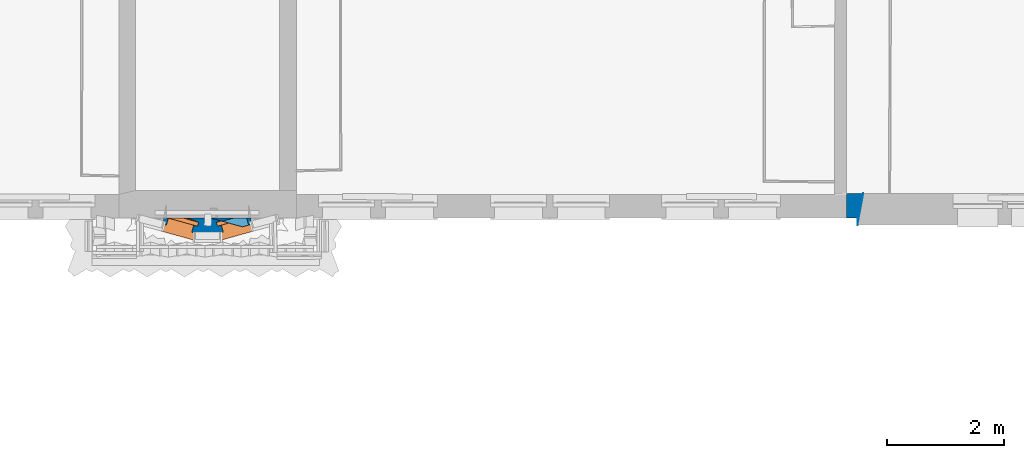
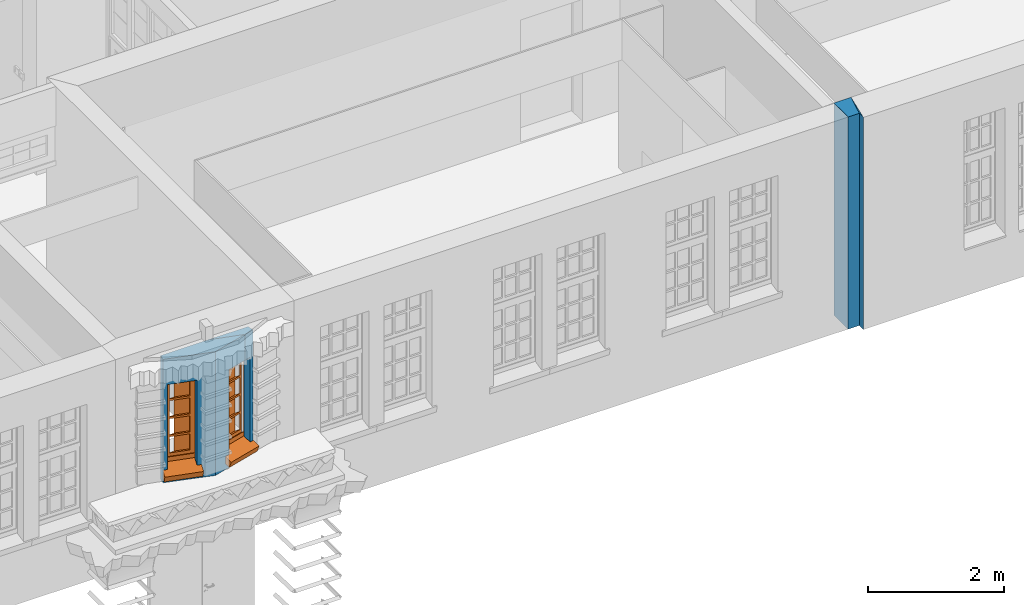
# One storey, part 74 of 158: 4 walls, 2 proxies, 2 openings.
"""IFC2X3 building model written with IfcOpenShell, lengths in metres."""

from ifc_helpers import new_model, entity, si_unit, converted_unit, derived_unit, money_unit, direction, frame, origin_with_axes, place, context, subcontext, project, spatial, polyline, outline, extrude, boolean, faceted_brep, material, type_object, element, fill, save


model = new_model("IFC2X3")

# Units and contexts
model_context = context("Model", 3, precision=1e-05, world=origin_with_axes(), true_north=direction((0.0, 1.0)))
body_context = subcontext(model_context, "Body", "Model", "MODEL_VIEW")
ifc_project = project(units=[si_unit("LENGTHUNIT", "METRE"), si_unit("AREAUNIT", "SQUARE_METRE"), si_unit("VOLUMEUNIT", "CUBIC_METRE"), converted_unit("PLANEANGLEUNIT", "DEGREE", entity("IfcPlaneAngleMeasure", 0.0174532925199), si_unit("PLANEANGLEUNIT", "RADIAN"), dimensions=[0, 0, 0, 0, 0, 0, 0]), money_unit("EUR"), converted_unit("TIMEUNIT", "Year", entity("IfcTimeMeasure", 31556926.0), si_unit("TIMEUNIT", "SECOND"), dimensions=[0, 0, 1, 0, 0, 0, 0]), si_unit("MASSUNIT", "GRAM", prefix="KILO"), si_unit("THERMODYNAMICTEMPERATUREUNIT", "DEGREE_CELSIUS"), si_unit("LUMINOUSINTENSITYUNIT", "LUMEN"), si_unit("ENERGYUNIT", "JOULE", prefix="MEGA"), derived_unit("THERMALCONDUCTANCEUNIT", [(si_unit("POWERUNIT", "WATT"), 1), (si_unit("LENGTHUNIT", "METRE"), -1), (si_unit("THERMODYNAMICTEMPERATUREUNIT", "KELVIN"), -1)]), derived_unit("SPECIFICHEATCAPACITYUNIT", [(si_unit("ENERGYUNIT", "JOULE"), 1), (si_unit("MASSUNIT", "GRAM", prefix="KILO"), -1), (si_unit("THERMODYNAMICTEMPERATUREUNIT", "KELVIN"), -1)]), derived_unit("MASSDENSITYUNIT", [(si_unit("MASSUNIT", "GRAM", prefix="KILO"), 1), (si_unit("VOLUMEUNIT", "CUBIC_METRE"), -1)])], contexts=[model_context])

# Site, building, storey
site_placement = place(None, origin_with_axes())
site = spatial("IfcSite", under=ifc_project, at=site_placement, Name="Gelände", CompositionType="ELEMENT")
building_placement = place(site_placement, origin_with_axes())
building = spatial("IfcBuilding", under=site, at=building_placement, Name="Gebäude", CompositionType="ELEMENT")
storey_placement = place(building_placement, origin_with_axes())
storey = spatial("IfcBuildingStorey", under=building, at=storey_placement, Name="ERDGESCHOSS", CompositionType="ELEMENT", Elevation=0.0)

# Wall
ifc_material = material(Name="05_ALLGEMEIN - TRAGENDE BAUTEILE")
wall_type_1 = type_object("IfcWallType", Name="05_ALLGEMEIN - TRAGENDE BAUTEILE 100", PredefinedType="ELEMENTEDWALL")
wall_1_placement = place(storey_placement, frame((3.7457522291, 9.9955937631, -0.21), z_axis=(0.0, 0.0, 1.0), x_axis=(-0.00239001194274, -0.999997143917, 0.0)))
element("IfcWall", 1, at=wall_1_placement, inside=storey, type_object=wall_type_1, material=ifc_material, Name="Wand-031", ObjectType="ELEMENTEDWALL", context=body_context, shape_type="CSG", body=[
    boolean("DIFFERENCE", extrude(outline(polyline([(-0.41924780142, 0.0), (0.121186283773, 0.0), (0.121186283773, 0.1), (-0.41924780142, 0.1), (-0.41924780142, 0.0)])), origin_with_axes(), (0.0, 0.0, 1.0), 3.81), faceted_brep([(0.0, 0.0, 3.81), (-0.419036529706, 0.0999496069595, 3.81), (-0.419036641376, 0.1, 3.81), (-0.41924780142, 0.1, 3.81), (-0.41924780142, 0.0, 3.81), (0.0, 0.0, 0.0), (-0.419036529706, 0.0999496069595, 0.0), (-0.419036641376, 0.1, 0.0), (0.121186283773, 0.1, 3.81), (0.121186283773, 0.1, 0.0), (-0.41924780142, 0.1, 0.0), (-0.41924780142, 0.0, 0.0), (0.121186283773, 0.0, 3.81), (0.121186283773, 0.0, 0.0)], [[[0, 1, 2, 3, 4]], [[1, 0, 5, 6]], [[2, 1, 6, 7]], [[8, 9, 7, 10, 3, 2]], [[3, 10, 11, 4]], [[5, 0, 4, 11]], [[6, 5, 11, 10, 7]], [[12, 2, 7, 13]], [[12, 13, 9, 8]], [[13, 7, 9]], [[2, 12, 8]]])),
])

# Wall, opening, proxy
wall_type_2 = type_object("IfcWallType", Name="05_ALLGEMEIN - TRAGENDE BAUTEILE 320", PredefinedType="ELEMENTEDWALL")
wall_2_placement = place(storey_placement, frame((-8.14682314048, 9.88904413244, 1.18241446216), z_axis=(0.0, 0.0, 1.0), x_axis=(0.963818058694, -0.26656096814, 0.0)))
wall_2 = element("IfcWall", 2, at=wall_2_placement, inside=storey, type_object=wall_type_2, material=ifc_material, Name="Wand-030", ObjectType="ELEMENTEDWALL", context=body_context, shape_type="CSG", body=[
    boolean("DIFFERENCE", boolean("DIFFERENCE", extrude(outline(polyline([(-0.0885275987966, 0.0), (1.32862995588, 0.0), (1.32862995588, 0.32), (-0.0885275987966, 0.32), (-0.0885275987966, 0.0)])), origin_with_axes(), (0.0, 0.0, 1.0), 2.22476603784), faceted_brep([(0.0, 0.0, 2.22476603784), (-0.008800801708, 0.107188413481, 2.22476603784), (0.760447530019, 0.32, 2.22476603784), (-0.0885275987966, 0.32, 2.22476603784), (-0.0885275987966, 0.0, 2.22476603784), (0.0, 0.0, 0.0), (-0.008800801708, 0.107188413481, 0.0), (0.760447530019, 0.32, 0.0), (-0.0885275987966, 0.32, 0.0), (-0.0885275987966, 0.0, 0.0)], [[[0, 1, 2, 3, 4]], [[1, 0, 5, 6]], [[7, 2, 1, 6]], [[2, 7, 8, 3]], [[3, 8, 9, 4]], [[5, 0, 4, 9]], [[6, 5, 9, 8, 7]]])), faceted_brep([(1.32862995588, 0.32, 0.0), (1.32862995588, 0.32, 0.107459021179), (1.32862995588, 0.32, 1.75944703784), (1.32862995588, 0.32, 2.22476603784), (1.32862995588, 0.0, 2.22476603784), (1.32862995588, 0.0, 0.0), (0.79772574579, 0.0, 2.22476603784), (1.03735978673, 0.144438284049, 1.75944703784), (1.03735978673, 0.144438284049, 0.107459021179), (0.79772574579, 0.0, 0.0), (1.08648678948, 0.32, 1.75944703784), (0.968238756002, 0.32, 0.107459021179), (0.968238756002, 0.32, 0.287936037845), (0.849808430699, 0.32, 0.287936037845), (0.849808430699, 0.32, 1.82944703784), (1.08648678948, 0.32, 1.82944703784), (0.97283184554, 0.251495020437, 1.75944703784), (0.97283184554, 0.251495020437, 0.287936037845), (0.941320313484, 0.30377503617, 0.287936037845), (0.941320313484, 0.30377503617, 0.107459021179), (0.912880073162, 0.215359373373, 0.287936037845), (0.912880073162, 0.215359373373, 1.82944703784)], [[[0, 1, 2, 3, 4, 5]], [[6, 3, 2, 7, 8, 1, 0, 9]], [[10, 2, 1, 11, 12, 13, 14, 15]], [[3, 6, 4]], [[6, 9, 5, 4]], [[9, 0, 5]], [[2, 10, 16, 7]], [[16, 17, 18, 19, 8, 7]], [[11, 1, 8, 19]], [[12, 11, 19, 18]], [[13, 12, 18, 17, 20]], [[14, 13, 20, 21]], [[15, 14, 21]], [[10, 15, 21, 20, 17, 16]]])),
])
opening_1_placement = place(wall_2_placement, frame((0.291796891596, 0.0, 0.287936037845), z_axis=(0.0, 0.0, 1.0), x_axis=(1.0, 0.0, 0.0)))
opening_1 = element("IfcOpeningElement", 3, at=opening_1_placement, cuts=wall_2, Name="Fenster-015", context=body_context, shape_type="Brep", body=[
    faceted_brep([(0.294976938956, 0.64, 0.0), (0.294976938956, 0.64, 1.541511), (0.294976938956, 0.125, 1.541511), (0.294976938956, 0.125, 0.0), (-0.294976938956, 0.64, 0.0), (-0.294976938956, 0.64, 1.541511), (-0.294976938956, 0.125, 1.541511), (-0.294976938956, 0.125, 0.0)], [[[0, 1, 2, 3]], [[0, 4, 5, 1]], [[1, 5, 6, 2]], [[3, 2, 6, 7]], [[4, 0, 3, 7]], [[5, 4, 7, 6]]]),
    faceted_brep([(0.224976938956, -0.32, 1.471511), (0.224976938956, -0.32, 0.0), (0.224976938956, 0.125, 0.0), (0.224976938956, 0.125, 1.471511), (-0.224976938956, -0.32, 1.471511), (-0.224976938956, -0.32, 0.0), (-0.224976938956, 0.125, 0.0), (-0.224976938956, 0.125, 1.471511)], [[[0, 1, 2, 3]], [[0, 4, 5, 1]], [[1, 5, 6, 2]], [[3, 2, 6, 7]], [[4, 0, 3, 7]], [[5, 4, 7, 6]]]),
    faceted_brep([(0.224976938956, -0.195, 0.0), (0.224976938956, -0.195, -0.180477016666), (0.224976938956, 0.186042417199, -0.180477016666), (0.224976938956, 0.186042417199, 0.0), (-0.224976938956, -0.195, 0.0), (-0.224976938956, -0.195, -0.180477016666), (-0.224976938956, 0.186042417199, -0.180477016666), (-0.224976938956, 0.186042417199, 0.0)], [[[0, 1, 2, 3]], [[0, 4, 5, 1]], [[1, 5, 6, 2]], [[3, 2, 6, 7]], [[4, 0, 3, 7]], [[5, 4, 7, 6]]]),
])
building_element_proxy_type = type_object("IfcBuildingElementProxyType", Name="1-Flügelfenster 25", PredefinedType="NOTDEFINED")
proxy_1_placement = place(opening_1_placement, frame((-0.294976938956, 0.0, 0.0), z_axis=(0.0, 0.0, 1.0), x_axis=(1.0, 0.0, 0.0)))
proxy_1 = element("IfcBuildingElementProxy", 4, at=proxy_1_placement, inside=storey, type_object=building_element_proxy_type, Name="Fenster-015", context=body_context, shape_type="Brep", body=[
    faceted_brep([(0.07, 0.128108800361, -0.133849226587), (0.279412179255, 0.186042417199, -0.112763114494), (0.519953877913, 0.186042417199, -0.112763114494), (0.519953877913, 0.0, -0.180477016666), (0.589953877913, 0.0, -0.180477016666), (0.589953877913, -0.08, -0.209594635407), (0.0, -0.08, -0.209594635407), (0.0, 0.0, -0.180477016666), (0.07, 0.0, -0.180477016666), (0.131056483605, 0.145, 0.0), (0.07, 0.128108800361, -0.00614789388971), (0.519953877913, 0.145, 0.0), (0.519953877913, 0.0, -0.0527756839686), (0.589953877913, 0.0, -0.0527756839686), (0.589953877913, -0.121042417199, -0.0968315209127), (0.0, -0.121042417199, -0.0968315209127), (0.0, 0.0, -0.0527756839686), (0.07, 0.0, -0.0527756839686)], [[[0, 1, 2, 3, 4, 5, 6, 7, 8]], [[9, 1, 0, 10]], [[1, 9, 11, 2]], [[3, 2, 11, 12]], [[3, 12, 13, 4]], [[5, 4, 13, 14]], [[6, 5, 14, 15]], [[16, 7, 6, 15]], [[16, 17, 8, 7]], [[10, 0, 8, 17]], [[9, 10, 17, 16, 15, 14, 13, 12, 11]]]),
    faceted_brep([(0.08, 0.130875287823, 0.08), (0.08, 0.130875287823, 1.461511), (0.08, 0.125, 1.461511), (0.08, 0.125, 0.08), (0.0587626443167, 0.125, 1.48274835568), (0.0587626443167, 0.125, 0.0587626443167)], [[[0, 1, 2, 3]], [[4, 1, 0, 5]], [[1, 4, 2]], [[4, 5, 3, 2]], [[5, 0, 3]]]),
    faceted_brep([(0.311791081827, 0.195, 0.0), (0.311791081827, 0.195, 0.08), (0.509953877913, 0.195, 0.08), (0.589953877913, 0.195, 0.0), (0.08, 0.130875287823, 0.08), (0.0587626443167, 0.125, 0.0), (0.0587626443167, 0.125, 0.0587626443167), (0.08, 0.125, 0.08), (0.509953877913, 0.125, 0.08), (0.589953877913, 0.125, 0.0)], [[[0, 1, 2, 3]], [[4, 1, 0, 5, 6]], [[1, 4, 7, 8, 2]], [[8, 9, 3, 2]], [[5, 0, 3, 9]], [[6, 5, 9, 8, 7]], [[4, 6, 7]]]),
    faceted_brep([(0.311791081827, 0.195, 1.461511), (0.311791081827, 0.195, 1.541511), (0.589953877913, 0.195, 1.541511), (0.509953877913, 0.195, 1.461511), (0.0587626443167, 0.125, 1.541511), (0.08, 0.130875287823, 1.461511), (0.0587626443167, 0.125, 1.48274835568), (0.589953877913, 0.125, 1.541511), (0.509953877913, 0.125, 1.461511), (0.08, 0.125, 1.461511)], [[[0, 1, 2, 3]], [[4, 1, 0, 5, 6]], [[1, 4, 7, 2]], [[7, 8, 3, 2]], [[5, 0, 3, 8, 9]], [[6, 5, 9]], [[4, 6, 9, 8, 7]]]),
    faceted_brep([(0.529953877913, 0.208, 0.06), (0.529953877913, 0.195, 0.06), (0.449953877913, 0.195, 0.14), (0.449953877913, 0.208, 0.14), (0.529953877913, 0.208, 1.481511), (0.529953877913, 0.195, 1.481511), (0.449953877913, 0.195, 1.401511), (0.449953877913, 0.208, 1.401511)], [[[0, 1, 2, 3]], [[4, 5, 1, 0]], [[2, 1, 5, 6]], [[3, 2, 6, 7]], [[4, 0, 3, 7]], [[7, 6, 5, 4]]]),
    faceted_brep([(0.358782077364, 0.208, 1.401511), (0.358782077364, 0.208, 1.481511), (0.529953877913, 0.208, 1.481511), (0.449953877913, 0.208, 1.401511), (0.311791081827, 0.195, 1.481511), (0.311791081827, 0.195, 1.401511), (0.529953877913, 0.195, 1.481511), (0.449953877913, 0.195, 1.401511)], [[[0, 1, 2, 3]], [[4, 1, 0, 5]], [[1, 4, 6, 2]], [[2, 6, 7, 3]], [[5, 0, 3, 7]], [[4, 5, 7, 6]]]),
    faceted_brep([(0.509953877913, 0.195, 0.08), (0.509953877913, 0.138, 0.08), (0.449953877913, 0.138, 0.14), (0.449953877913, 0.195, 0.14), (0.509953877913, 0.195, 1.461511), (0.509953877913, 0.138, 1.461511), (0.449953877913, 0.138, 1.401511), (0.449953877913, 0.195, 1.401511)], [[[0, 1, 2, 3]], [[4, 5, 1, 0]], [[2, 1, 5, 6]], [[3, 2, 6, 7]], [[4, 0, 3, 7]], [[7, 6, 5, 4]]]),
    faceted_brep([(0.311791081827, 0.195, 1.401511), (0.311791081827, 0.195, 1.461511), (0.509953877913, 0.195, 1.461511), (0.449953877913, 0.195, 1.401511), (0.105753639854, 0.138, 1.461511), (0.14, 0.147474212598, 1.401511), (0.105753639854, 0.138, 1.43575736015), (0.509953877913, 0.138, 1.461511), (0.449953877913, 0.138, 1.401511), (0.14, 0.138, 1.401511)], [[[0, 1, 2, 3]], [[4, 1, 0, 5, 6]], [[1, 4, 7, 2]], [[2, 7, 8, 3]], [[5, 0, 3, 8, 9]], [[6, 5, 9]], [[4, 6, 9, 8, 7]]]),
    faceted_brep([(0.358782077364, 0.208, 0.42912775), (0.358782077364, 0.208, 0.46412775), (0.449953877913, 0.208, 0.46412775), (0.449953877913, 0.208, 0.42912775), (0.232267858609, 0.173, 0.46412775), (0.232267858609, 0.173, 0.42912775), (0.449953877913, 0.173, 0.46412775), (0.449953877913, 0.173, 0.42912775)], [[[0, 1, 2, 3]], [[4, 1, 0, 5]], [[1, 4, 6, 2]], [[6, 7, 3, 2]], [[5, 0, 3, 7]], [[4, 5, 7, 6]]]),
    faceted_brep([(0.232267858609, 0.173, 0.7532555), (0.232267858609, 0.173, 0.7882555), (0.449953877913, 0.173, 0.7882555), (0.449953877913, 0.173, 0.7532555), (0.14, 0.147474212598, 0.7882555), (0.14, 0.147474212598, 0.7532555), (0.14, 0.138, 0.7882555), (0.449953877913, 0.138, 0.7882555), (0.449953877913, 0.138, 0.7532555), (0.14, 0.138, 0.7532555)], [[[0, 1, 2, 3]], [[4, 1, 0, 5]], [[1, 4, 6, 7, 2]], [[7, 8, 3, 2]], [[5, 0, 3, 8, 9]], [[4, 5, 9, 6]], [[6, 9, 8, 7]]]),
    faceted_brep([(0.358782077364, 0.208, 0.7532555), (0.358782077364, 0.208, 0.7882555), (0.449953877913, 0.208, 0.7882555), (0.449953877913, 0.208, 0.7532555), (0.232267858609, 0.173, 0.7882555), (0.232267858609, 0.173, 0.7532555), (0.449953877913, 0.173, 0.7882555), (0.449953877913, 0.173, 0.7532555)], [[[0, 1, 2, 3]], [[4, 1, 0, 5]], [[1, 4, 6, 2]], [[6, 7, 3, 2]], [[5, 0, 3, 7]], [[4, 5, 7, 6]]]),
    faceted_brep([(0.232267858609, 0.173, 1.07738325), (0.232267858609, 0.173, 1.11238325), (0.449953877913, 0.173, 1.11238325), (0.449953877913, 0.173, 1.07738325), (0.14, 0.147474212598, 1.11238325), (0.14, 0.147474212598, 1.07738325), (0.14, 0.138, 1.11238325), (0.449953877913, 0.138, 1.11238325), (0.449953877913, 0.138, 1.07738325), (0.14, 0.138, 1.07738325)], [[[0, 1, 2, 3]], [[4, 1, 0, 5]], [[1, 4, 6, 7, 2]], [[7, 8, 3, 2]], [[5, 0, 3, 8, 9]], [[4, 5, 9, 6]], [[6, 9, 8, 7]]]),
    faceted_brep([(0.358782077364, 0.208, 1.07738325), (0.358782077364, 0.208, 1.11238325), (0.449953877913, 0.208, 1.11238325), (0.449953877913, 0.208, 1.07738325), (0.232267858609, 0.173, 1.11238325), (0.232267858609, 0.173, 1.07738325), (0.449953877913, 0.173, 1.11238325), (0.449953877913, 0.173, 1.07738325)], [[[0, 1, 2, 3]], [[4, 1, 0, 5]], [[1, 4, 6, 2]], [[6, 7, 3, 2]], [[5, 0, 3, 7]], [[4, 5, 7, 6]]]),
    faceted_brep([(0.250341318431, 0.178, 1.11238325), (0.250341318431, 0.178, 1.401511), (0.449953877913, 0.178, 1.401511), (0.449953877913, 0.178, 1.11238325), (0.214194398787, 0.168, 1.401511), (0.214194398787, 0.168, 1.11238325), (0.449953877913, 0.168, 1.401511), (0.449953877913, 0.168, 1.11238325)], [[[0, 1, 2, 3]], [[4, 1, 0, 5]], [[1, 4, 6, 2]], [[6, 7, 3, 2]], [[5, 0, 3, 7]], [[4, 5, 7, 6]]]),
    faceted_brep([(0.358782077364, 0.208, 0.06), (0.358782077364, 0.208, 0.14), (0.449953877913, 0.208, 0.14), (0.529953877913, 0.208, 0.06), (0.311791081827, 0.195, 0.14), (0.311791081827, 0.195, 0.06), (0.449953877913, 0.195, 0.14), (0.529953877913, 0.195, 0.06)], [[[0, 1, 2, 3]], [[4, 1, 0, 5]], [[1, 4, 6, 2]], [[6, 7, 3, 2]], [[5, 0, 3, 7]], [[4, 5, 7, 6]]]),
    faceted_brep([(0.14, 0.147474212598, 0.14), (0.14, 0.147474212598, 1.401511), (0.14, 0.138, 1.401511), (0.14, 0.138, 0.14), (0.105753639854, 0.138, 1.43575736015), (0.105753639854, 0.138, 0.105753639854)], [[[0, 1, 2, 3]], [[4, 1, 0, 5]], [[1, 4, 2]], [[4, 5, 3, 2]], [[5, 0, 3]]]),
    faceted_brep([(0.311791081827, 0.195, 0.08), (0.311791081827, 0.195, 0.14), (0.449953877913, 0.195, 0.14), (0.509953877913, 0.195, 0.08), (0.14, 0.147474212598, 0.14), (0.105753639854, 0.138, 0.08), (0.105753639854, 0.138, 0.105753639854), (0.14, 0.138, 0.14), (0.449953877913, 0.138, 0.14), (0.509953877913, 0.138, 0.08)], [[[0, 1, 2, 3]], [[4, 1, 0, 5, 6]], [[1, 4, 7, 8, 2]], [[8, 9, 3, 2]], [[5, 0, 3, 9]], [[6, 5, 9, 8, 7]], [[4, 6, 7]]]),
    faceted_brep([(0.232267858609, 0.173, 0.42912775), (0.232267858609, 0.173, 0.46412775), (0.449953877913, 0.173, 0.46412775), (0.449953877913, 0.173, 0.42912775), (0.14, 0.147474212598, 0.46412775), (0.14, 0.147474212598, 0.42912775), (0.14, 0.138, 0.46412775), (0.449953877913, 0.138, 0.46412775), (0.449953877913, 0.138, 0.42912775), (0.14, 0.138, 0.42912775)], [[[0, 1, 2, 3]], [[4, 1, 0, 5]], [[1, 4, 6, 7, 2]], [[7, 8, 3, 2]], [[5, 0, 3, 8, 9]], [[4, 5, 9, 6]], [[6, 9, 8, 7]]]),
    faceted_brep([(0.250341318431, 0.178, 0.7882555), (0.250341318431, 0.178, 1.07738325), (0.449953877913, 0.178, 1.07738325), (0.449953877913, 0.178, 0.7882555), (0.214194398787, 0.168, 1.07738325), (0.214194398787, 0.168, 0.7882555), (0.449953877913, 0.168, 1.07738325), (0.449953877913, 0.168, 0.7882555)], [[[0, 1, 2, 3]], [[4, 1, 0, 5]], [[1, 4, 6, 2]], [[3, 2, 6, 7]], [[5, 0, 3, 7]], [[4, 5, 7, 6]]]),
    faceted_brep([(0.250341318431, 0.178, 0.46412775), (0.250341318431, 0.178, 0.7532555), (0.449953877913, 0.178, 0.7532555), (0.449953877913, 0.178, 0.46412775), (0.214194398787, 0.168, 0.7532555), (0.214194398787, 0.168, 0.46412775), (0.449953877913, 0.168, 0.7532555), (0.449953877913, 0.168, 0.46412775)], [[[0, 1, 2, 3]], [[4, 1, 0, 5]], [[1, 4, 6, 2]], [[6, 7, 3, 2]], [[5, 0, 3, 7]], [[4, 5, 7, 6]]]),
    faceted_brep([(0.250341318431, 0.178, 0.14), (0.250341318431, 0.178, 0.42912775), (0.449953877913, 0.178, 0.42912775), (0.449953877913, 0.178, 0.14), (0.214194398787, 0.168, 0.42912775), (0.214194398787, 0.168, 0.14), (0.449953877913, 0.168, 0.42912775), (0.449953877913, 0.168, 0.14)], [[[0, 1, 2, 3]], [[4, 1, 0, 5]], [[1, 4, 6, 2]], [[3, 2, 6, 7]], [[5, 0, 3, 7]], [[4, 5, 7, 6]]]),
    faceted_brep([(0.589953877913, 0.125, 0.0), (0.589953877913, 0.195, 0.0), (0.589953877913, 0.195, 1.541511), (0.589953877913, 0.125, 1.541511), (0.509953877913, 0.125, 0.08), (0.509953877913, 0.195, 0.08), (0.509953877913, 0.195, 1.461511), (0.509953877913, 0.125, 1.461511)], [[[0, 1, 2, 3]], [[4, 5, 1, 0]], [[1, 5, 6, 2]], [[3, 2, 6, 7]], [[0, 3, 7, 4]], [[7, 6, 5, 4]]]),
])
fill(opening_1, proxy_1)

wall_3_placement = place(storey_placement, frame((-7.3779606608, 9.67640158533, 1.18241446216), z_axis=(0.0, 0.0, 1.0), x_axis=(0.963070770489, 0.269248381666, 0.0)))
wall_3 = element("IfcWall", 5, at=wall_3_placement, inside=storey, type_object=wall_type_2, material=ifc_material, Name="Wand-031", ObjectType="ELEMENTEDWALL", context=body_context, shape_type="CSG", body=[
    boolean("DIFFERENCE", extrude(outline(polyline([(-0.53090421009, 0.0), (0.875109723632, 0.0), (0.875109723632, 0.32), (-0.53090421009, 0.32), (-0.53090421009, 0.0)])), origin_with_axes(), (0.0, 0.0, 1.0), 2.22476603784), faceted_brep([(0.133264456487, 0.293309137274, 2.22476603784), (0.797577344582, 0.107639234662, 2.22476603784), (0.785646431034, 0.0, 2.22476603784), (0.875109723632, 0.0, 2.22476603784), (0.875109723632, 0.32, 2.22476603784), (-0.53090421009, 0.32, 2.22476603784), (-0.53090421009, 0.0, 2.22476603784), (0.619886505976, 0.0, 2.22476603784), (0.133264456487, 0.293309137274, 0.0), (0.797577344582, 0.107639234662, 0.0), (0.785646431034, 0.0, 0.0), (0.875109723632, 0.0, 0.0), (0.875109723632, 0.32, 0.0), (-0.53090421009, 0.32, 0.0), (-0.53090421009, 0.0, 0.0), (0.619886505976, 0.0, 0.0)], [[[0, 1, 2, 3, 4, 5, 6, 7]], [[1, 0, 8, 9]], [[10, 2, 1, 9]], [[2, 10, 11, 3]], [[3, 11, 12, 4]], [[4, 12, 13, 5]], [[5, 13, 14, 6]], [[15, 7, 6, 14]], [[0, 7, 15, 8]], [[8, 15, 14, 13, 12, 11, 10, 9]]])),
])
opening_2_placement = place(wall_3_placement, frame((0.504774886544, 0.0, 0.287936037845), z_axis=(0.0, 0.0, 1.0), x_axis=(1.0, 0.0, 0.0)))
opening_2 = element("IfcOpeningElement", 6, at=opening_2_placement, cuts=wall_3, Name="Fenster-015", context=body_context, shape_type="Brep", body=[
    faceted_brep([(0.294976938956, 0.64, 0.0), (0.294976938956, 0.64, 1.541511), (0.294976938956, 0.125, 1.541511), (0.294976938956, 0.125, 0.0), (-0.294976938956, 0.64, 0.0), (-0.294976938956, 0.64, 1.541511), (-0.294976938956, 0.125, 1.541511), (-0.294976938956, 0.125, 0.0)], [[[0, 1, 2, 3]], [[0, 4, 5, 1]], [[1, 5, 6, 2]], [[3, 2, 6, 7]], [[4, 0, 3, 7]], [[5, 4, 7, 6]]]),
    faceted_brep([(0.224976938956, -0.32, 1.471511), (0.224976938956, -0.32, 0.0), (0.224976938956, 0.125, 0.0), (0.224976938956, 0.125, 1.471511), (-0.224976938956, -0.32, 1.471511), (-0.224976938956, -0.32, 0.0), (-0.224976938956, 0.125, 0.0), (-0.224976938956, 0.125, 1.471511)], [[[0, 1, 2, 3]], [[0, 4, 5, 1]], [[1, 5, 6, 2]], [[3, 2, 6, 7]], [[4, 0, 3, 7]], [[5, 4, 7, 6]]]),
    faceted_brep([(0.224976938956, -0.195, 0.0), (0.224976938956, -0.195, -0.180477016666), (0.224976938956, 0.186042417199, -0.180477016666), (0.224976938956, 0.186042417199, 0.0), (-0.224976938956, -0.195, 0.0), (-0.224976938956, -0.195, -0.180477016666), (-0.224976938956, 0.186042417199, -0.180477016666), (-0.224976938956, 0.186042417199, 0.0)], [[[0, 1, 2, 3]], [[0, 4, 5, 1]], [[1, 5, 6, 2]], [[3, 2, 6, 7]], [[4, 0, 3, 7]], [[5, 4, 7, 6]]]),
])
proxy_2_placement = place(opening_2_placement, frame((-0.294976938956, 0.0, 0.0), z_axis=(0.0, 0.0, 1.0), x_axis=(1.0, 0.0, 0.0)))
proxy_2 = element("IfcBuildingElementProxy", 7, at=proxy_2_placement, inside=storey, type_object=building_element_proxy_type, Name="Fenster-015", context=body_context, shape_type="Brep", body=[
    faceted_brep([(0.519953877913, 0.126595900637, -0.134399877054), (0.519953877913, 0.126595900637, -0.00669854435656), (0.519953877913, 0.0, -0.0527756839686), (0.519953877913, 0.0, -0.180477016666), (0.454105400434, 0.145, 0.0), (0.307258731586, 0.186042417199, -0.112763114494), (0.07, 0.145, 0.0), (0.07, 0.0, -0.0527756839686), (0.0, 0.0, -0.0527756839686), (0.0, -0.121042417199, -0.0968315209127), (0.589953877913, -0.121042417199, -0.0968315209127), (0.589953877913, 0.0, -0.0527756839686), (0.589953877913, 0.0, -0.180477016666), (0.589953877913, -0.08, -0.209594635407), (0.0, -0.08, -0.209594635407), (0.0, 0.0, -0.180477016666), (0.07, 0.0, -0.180477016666), (0.07, 0.186042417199, -0.112763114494)], [[[0, 1, 2, 3]], [[4, 1, 0, 5]], [[1, 4, 6, 7, 8, 9, 10, 11, 2]], [[3, 2, 11, 12]], [[5, 0, 3, 12, 13, 14, 15, 16, 17]], [[4, 5, 17, 6]], [[7, 6, 17, 16]], [[8, 7, 16, 15]], [[8, 15, 14, 9]], [[14, 13, 10, 9]], [[13, 12, 11, 10]]]),
    faceted_brep([(0.525663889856, 0.125, 0.064289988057), (0.525663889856, 0.125, 1.47722101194), (0.509953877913, 0.125, 1.461511), (0.509953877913, 0.125, 0.08), (0.509953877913, 0.129390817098, 1.461511), (0.509953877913, 0.129390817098, 0.08)], [[[0, 1, 2, 3]], [[4, 1, 0, 5]], [[1, 4, 2]], [[4, 5, 3, 2]], [[5, 0, 3]]]),
    faceted_brep([(0.525663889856, 0.125, 0.0), (0.525663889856, 0.125, 0.064289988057), (0.509953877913, 0.125, 0.08), (0.08, 0.125, 0.08), (0.0, 0.125, 0.0), (0.509953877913, 0.129390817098, 0.08), (0.275209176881, 0.195, 0.0), (0.275209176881, 0.195, 0.08), (0.08, 0.195, 0.08), (0.0, 0.195, 0.0)], [[[0, 1, 2, 3, 4]], [[5, 1, 0, 6, 7]], [[1, 5, 2]], [[5, 7, 8, 3, 2]], [[4, 3, 8, 9]], [[6, 0, 4, 9]], [[7, 6, 9, 8]]]),
    faceted_brep([(0.525663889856, 0.125, 1.47722101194), (0.525663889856, 0.125, 1.541511), (0.0, 0.125, 1.541511), (0.08, 0.125, 1.461511), (0.509953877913, 0.125, 1.461511), (0.275209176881, 0.195, 1.541511), (0.509953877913, 0.129390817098, 1.461511), (0.275209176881, 0.195, 1.461511), (0.0, 0.195, 1.541511), (0.08, 0.195, 1.461511)], [[[0, 1, 2, 3, 4]], [[5, 1, 0, 6, 7]], [[1, 5, 8, 2]], [[3, 2, 8, 9]], [[7, 6, 4, 3, 9]], [[6, 0, 4]], [[5, 7, 9, 8]]]),
    faceted_brep([(0.275209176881, 0.195, 1.401511), (0.275209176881, 0.195, 1.481511), (0.06, 0.195, 1.481511), (0.14, 0.195, 1.401511), (0.228696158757, 0.208, 1.481511), (0.228696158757, 0.208, 1.401511), (0.06, 0.208, 1.481511), (0.14, 0.208, 1.401511)], [[[0, 1, 2, 3]], [[4, 1, 0, 5]], [[1, 4, 6, 2]], [[7, 3, 2, 6]], [[5, 0, 3, 7]], [[4, 5, 7, 6]]]),
    faceted_brep([(0.479150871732, 0.138, 0.110803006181), (0.479150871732, 0.138, 1.43070799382), (0.449953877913, 0.138, 1.401511), (0.449953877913, 0.138, 0.14), (0.449953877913, 0.146160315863, 1.401511), (0.449953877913, 0.146160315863, 0.14)], [[[0, 1, 2, 3]], [[4, 1, 0, 5]], [[1, 4, 2]], [[4, 5, 3, 2]], [[5, 0, 3]]]),
    faceted_brep([(0.479150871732, 0.138, 1.43070799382), (0.479150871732, 0.138, 1.461511), (0.08, 0.138, 1.461511), (0.14, 0.138, 1.401511), (0.449953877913, 0.138, 1.401511), (0.275209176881, 0.195, 1.461511), (0.449953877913, 0.146160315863, 1.401511), (0.275209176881, 0.195, 1.401511), (0.08, 0.195, 1.461511), (0.14, 0.195, 1.401511)], [[[0, 1, 2, 3, 4]], [[5, 1, 0, 6, 7]], [[1, 5, 8, 2]], [[9, 3, 2, 8]], [[7, 6, 4, 3, 9]], [[6, 0, 4]], [[5, 7, 9, 8]]]),
    faceted_brep([(0.353923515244, 0.173, 0.42912775), (0.353923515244, 0.173, 0.46412775), (0.14, 0.173, 0.46412775), (0.14, 0.173, 0.42912775), (0.228696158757, 0.208, 0.46412775), (0.228696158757, 0.208, 0.42912775), (0.14, 0.208, 0.46412775), (0.14, 0.208, 0.42912775)], [[[0, 1, 2, 3]], [[4, 1, 0, 5]], [[1, 4, 6, 2]], [[3, 2, 6, 7]], [[5, 0, 3, 7]], [[4, 5, 7, 6]]]),
    faceted_brep([(0.449953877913, 0.146160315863, 0.7532555), (0.449953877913, 0.146160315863, 0.7882555), (0.449953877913, 0.138, 0.7882555), (0.449953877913, 0.138, 0.7532555), (0.353923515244, 0.173, 0.7882555), (0.353923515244, 0.173, 0.7532555), (0.14, 0.173, 0.7882555), (0.14, 0.138, 0.7882555), (0.14, 0.138, 0.7532555), (0.14, 0.173, 0.7532555)], [[[0, 1, 2, 3]], [[4, 1, 0, 5]], [[1, 4, 6, 7, 2]], [[7, 8, 3, 2]], [[5, 0, 3, 8, 9]], [[4, 5, 9, 6]], [[8, 7, 6, 9]]]),
    faceted_brep([(0.353923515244, 0.173, 0.7532555), (0.353923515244, 0.173, 0.7882555), (0.14, 0.173, 0.7882555), (0.14, 0.173, 0.7532555), (0.228696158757, 0.208, 0.7882555), (0.228696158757, 0.208, 0.7532555), (0.14, 0.208, 0.7882555), (0.14, 0.208, 0.7532555)], [[[0, 1, 2, 3]], [[4, 1, 0, 5]], [[1, 4, 6, 2]], [[3, 2, 6, 7]], [[5, 0, 3, 7]], [[4, 5, 7, 6]]]),
    faceted_brep([(0.449953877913, 0.146160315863, 1.07738325), (0.449953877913, 0.146160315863, 1.11238325), (0.449953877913, 0.138, 1.11238325), (0.449953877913, 0.138, 1.07738325), (0.353923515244, 0.173, 1.11238325), (0.353923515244, 0.173, 1.07738325), (0.14, 0.173, 1.11238325), (0.14, 0.138, 1.11238325), (0.14, 0.138, 1.07738325), (0.14, 0.173, 1.07738325)], [[[0, 1, 2, 3]], [[4, 1, 0, 5]], [[1, 4, 6, 7, 2]], [[7, 8, 3, 2]], [[5, 0, 3, 8, 9]], [[4, 5, 9, 6]], [[8, 7, 6, 9]]]),
    faceted_brep([(0.353923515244, 0.173, 1.07738325), (0.353923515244, 0.173, 1.11238325), (0.14, 0.173, 1.11238325), (0.14, 0.173, 1.07738325), (0.228696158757, 0.208, 1.11238325), (0.228696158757, 0.208, 1.07738325), (0.14, 0.208, 1.11238325), (0.14, 0.208, 1.07738325)], [[[0, 1, 2, 3]], [[4, 1, 0, 5]], [[1, 4, 6, 2]], [[3, 2, 6, 7]], [[5, 0, 3, 7]], [[4, 5, 7, 6]]]),
    faceted_brep([(0.3718131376, 0.168, 1.11238325), (0.3718131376, 0.168, 1.401511), (0.14, 0.168, 1.401511), (0.14, 0.168, 1.11238325), (0.336033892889, 0.178, 1.401511), (0.336033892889, 0.178, 1.11238325), (0.14, 0.178, 1.401511), (0.14, 0.178, 1.11238325)], [[[0, 1, 2, 3]], [[4, 1, 0, 5]], [[1, 4, 6, 2]], [[6, 7, 3, 2]], [[5, 0, 3, 7]], [[4, 5, 7, 6]]]),
    faceted_brep([(0.14, 0.195, 0.14), (0.06, 0.195, 0.06), (0.06, 0.208, 0.06), (0.14, 0.208, 0.14), (0.06, 0.195, 1.481511), (0.14, 0.195, 1.401511), (0.06, 0.208, 1.481511), (0.14, 0.208, 1.401511)], [[[0, 1, 2, 3]], [[4, 1, 0, 5]], [[1, 4, 6, 2]], [[3, 2, 6, 7]], [[5, 0, 3, 7]], [[4, 5, 7, 6]]]),
    faceted_brep([(0.275209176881, 0.195, 0.06), (0.275209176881, 0.195, 0.14), (0.14, 0.195, 0.14), (0.06, 0.195, 0.06), (0.228696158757, 0.208, 0.14), (0.228696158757, 0.208, 0.06), (0.14, 0.208, 0.14), (0.06, 0.208, 0.06)], [[[0, 1, 2, 3]], [[4, 1, 0, 5]], [[1, 4, 6, 2]], [[3, 2, 6, 7]], [[5, 0, 3, 7]], [[4, 5, 7, 6]]]),
    faceted_brep([(0.14, 0.138, 0.14), (0.08, 0.138, 0.08), (0.08, 0.195, 0.08), (0.14, 0.195, 0.14), (0.08, 0.138, 1.461511), (0.14, 0.138, 1.401511), (0.08, 0.195, 1.461511), (0.14, 0.195, 1.401511)], [[[0, 1, 2, 3]], [[4, 1, 0, 5]], [[1, 4, 6, 2]], [[3, 2, 6, 7]], [[5, 0, 3, 7]], [[4, 5, 7, 6]]]),
    faceted_brep([(0.479150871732, 0.138, 0.08), (0.479150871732, 0.138, 0.110803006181), (0.449953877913, 0.138, 0.14), (0.14, 0.138, 0.14), (0.08, 0.138, 0.08), (0.449953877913, 0.146160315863, 0.14), (0.275209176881, 0.195, 0.08), (0.275209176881, 0.195, 0.14), (0.14, 0.195, 0.14), (0.08, 0.195, 0.08)], [[[0, 1, 2, 3, 4]], [[5, 1, 0, 6, 7]], [[1, 5, 2]], [[5, 7, 8, 3, 2]], [[4, 3, 8, 9]], [[6, 0, 4, 9]], [[7, 6, 9, 8]]]),
    faceted_brep([(0.449953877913, 0.146160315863, 0.42912775), (0.449953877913, 0.146160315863, 0.46412775), (0.449953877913, 0.138, 0.46412775), (0.449953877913, 0.138, 0.42912775), (0.353923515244, 0.173, 0.46412775), (0.353923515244, 0.173, 0.42912775), (0.14, 0.173, 0.46412775), (0.14, 0.138, 0.46412775), (0.14, 0.138, 0.42912775), (0.14, 0.173, 0.42912775)], [[[0, 1, 2, 3]], [[4, 1, 0, 5]], [[1, 4, 6, 7, 2]], [[7, 8, 3, 2]], [[5, 0, 3, 8, 9]], [[4, 5, 9, 6]], [[8, 7, 6, 9]]]),
    faceted_brep([(0.3718131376, 0.168, 0.7882555), (0.3718131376, 0.168, 1.07738325), (0.14, 0.168, 1.07738325), (0.14, 0.168, 0.7882555), (0.336033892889, 0.178, 1.07738325), (0.336033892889, 0.178, 0.7882555), (0.14, 0.178, 1.07738325), (0.14, 0.178, 0.7882555)], [[[0, 1, 2, 3]], [[4, 1, 0, 5]], [[1, 4, 6, 2]], [[3, 2, 6, 7]], [[5, 0, 3, 7]], [[4, 5, 7, 6]]]),
    faceted_brep([(0.3718131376, 0.168, 0.46412775), (0.3718131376, 0.168, 0.7532555), (0.14, 0.168, 0.7532555), (0.14, 0.168, 0.46412775), (0.336033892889, 0.178, 0.7532555), (0.336033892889, 0.178, 0.46412775), (0.14, 0.178, 0.7532555), (0.14, 0.178, 0.46412775)], [[[0, 1, 2, 3]], [[4, 1, 0, 5]], [[1, 4, 6, 2]], [[6, 7, 3, 2]], [[5, 0, 3, 7]], [[4, 5, 7, 6]]]),
    faceted_brep([(0.3718131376, 0.168, 0.14), (0.3718131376, 0.168, 0.42912775), (0.14, 0.168, 0.42912775), (0.14, 0.168, 0.14), (0.336033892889, 0.178, 0.42912775), (0.336033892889, 0.178, 0.14), (0.14, 0.178, 0.42912775), (0.14, 0.178, 0.14)], [[[0, 1, 2, 3]], [[4, 1, 0, 5]], [[1, 4, 6, 2]], [[3, 2, 6, 7]], [[5, 0, 3, 7]], [[4, 5, 7, 6]]]),
    faceted_brep([(0.0, 0.125, 0.0), (0.0, 0.195, 0.0), (0.08, 0.195, 0.08), (0.08, 0.125, 0.08), (0.0, 0.125, 1.541511), (0.0, 0.195, 1.541511), (0.08, 0.195, 1.461511), (0.08, 0.125, 1.461511)], [[[0, 1, 2, 3]], [[4, 5, 1, 0]], [[1, 5, 6, 2]], [[3, 2, 6, 7]], [[0, 3, 7, 4]], [[7, 6, 5, 4]]]),
])
fill(opening_2, proxy_2)

# Wall
wall_type_3 = type_object("IfcWallType", Name="05_ALLGEMEIN - TRAGENDE BAUTEILE 419", PredefinedType="ELEMENTEDWALL")
wall_4_placement = place(storey_placement, frame((3.55510466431, 9.99557941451, -0.21), z_axis=(0.0, 0.0, 1.0), x_axis=(0.999999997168, 7.52624069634e-05, 0.0)))
element("IfcWall", 8, at=wall_4_placement, inside=storey, type_object=wall_type_3, material=ifc_material, Name="Wand-030", ObjectType="ELEMENTEDWALL", context=body_context, shape_type="CSG", body=[
    boolean("DIFFERENCE", extrude(outline(polyline([(0.0, 0.0), (0.291680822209, 0.0), (0.291680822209, 0.419), (0.0, 0.419), (0.0, 0.0)])), origin_with_axes(), (0.0, 0.0, 1.0), 3.81), faceted_brep([(0.000135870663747, 0.419, 3.81), (0.000135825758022, 0.418861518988, 3.81), (0.291629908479, 0.41878885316, 3.81), (0.19064756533, 0.0, 3.81), (0.291680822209, 0.0, 3.81), (0.291680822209, 0.419, 3.81), (0.000135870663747, 0.419, 0.0), (0.000135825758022, 0.418861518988, 0.0), (0.000135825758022, 0.418861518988, 0.14), (0.291629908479, 0.41878885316, 0.0), (0.19064756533, 0.0, 0.0), (0.291680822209, 0.0, 0.0), (0.291680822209, 0.419, 0.0)], [[[0, 1, 2, 3, 4, 5]], [[1, 0, 6, 7, 8]], [[2, 1, 8, 7, 9]], [[3, 2, 9, 10]], [[3, 10, 11, 4]], [[12, 5, 4, 11]], [[6, 0, 5, 12]], [[7, 6, 12, 11, 10, 9]]])),
])

save(model, "model.ifc")
